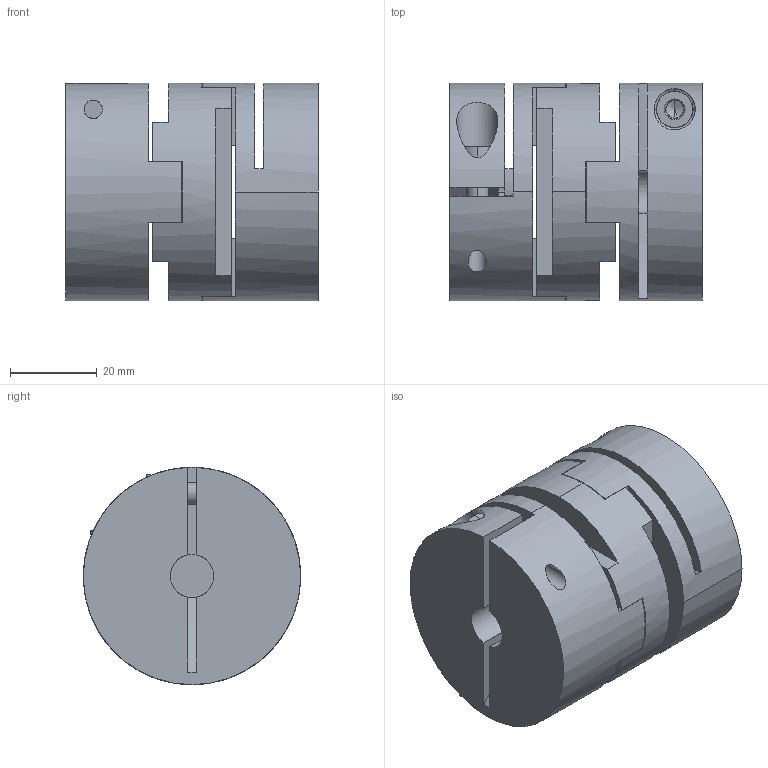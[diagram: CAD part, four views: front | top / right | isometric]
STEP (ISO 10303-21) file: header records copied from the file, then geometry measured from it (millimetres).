
FILE_DESCRIPTION (( 'STEP AP203' ), '1' );
FILE_NAME ('KBO2-50.STEP', '2024-01-10T12:08:00', ( '' ), ( '' ), 'SwSTEP 2.0', 'SolidWorks 2022', '' );
FILE_SCHEMA (( 'CONFIG_CONTROL_DESIGN' ));
Length unit declared in the file: millimetre
Products named in the file (4): ONK 50_011.00001095.100; OZS 50_011.00001094.500; ISO 4762 - M5 x 16; KBO2-50
Assembly tree (5 placements, depth 2):
  KBO2-50
    OZS 50_011.00001094.500
    ONK 50_011.00001095.100  x2
    ISO 4762 - M5 x 16  x2
Bounding box: 58 x 50 x 50 mm (x, y, z)
Volume: 90932.4 mm3; surface area: 30702.3 mm2
Topology: 5 solids, 5 shells, 155 faces, 397 edges, 252 vertices
Faces by surface type: plane 86, cylinder 45, torus 12, cone 12
Entity records: 3431 total; most frequent: CARTESIAN_POINT 646, DIRECTION 523, ORIENTED_EDGE 474, EDGE_CURVE 237, AXIS2_PLACEMENT_3D 200, VERTEX_POINT 153, LINE 123, VECTOR 123
